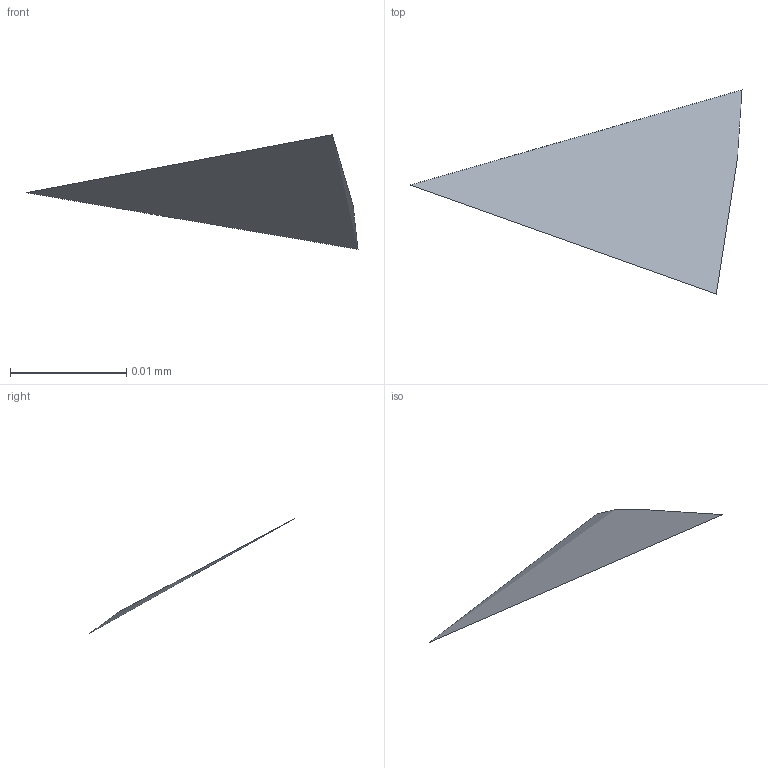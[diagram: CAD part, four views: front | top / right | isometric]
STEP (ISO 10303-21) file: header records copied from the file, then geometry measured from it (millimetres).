
FILE_DESCRIPTION(/* description */ ('STEP AP242 Edition 2','CAx-IF Rec.Pracs.---Representation and Presentation of Product Manufacturing Information (PMI)---4.0---2014-10-13','CAx-IF Rec.Pracs.---3D Tessellated Geometry---0.4---2014-09-14','2;1','CAx-IF Rec.Pracs.---User Defined Attributes---1.5---2016-08-15'),/* implementation_level */ '2;1');
FILE_NAME(/* name */ 'Assembly 1 - Part 56',/* time_stamp */ '2026-03-29T21:14:58Z',/* author */ (''),/* organization */ (''),/* preprocessor_version */ 'ST-DEVELOPER v20',/* originating_system */ 'ONSHAPE BY PTC INC, 1.212',/* authorisation */ ' ');
FILE_SCHEMA (('AP242_MANAGED_MODEL_BASED_3D_ENGINEERING_MIM_LF { 1 0 10303 442 3 1 4 }'));
Length unit declared in the file: metre
Products named in the file (1): Part 56
Bounding box: 0.03 x 0.02 x 0.01 mm (x, y, z)
Surface area: 0 mm2 (no closed solid volume)
Topology: 0 solids, 1 shells, 1 faces, 0 edges, 0 vertices
Faces by surface type: other 1
Entity records: 31 total; most frequent: DIRECTION 2, SHAPE_REPRESENTATION_RELATIONSHIP 1, TESSELLATED_SHAPE_REPRESENTATION 1, STYLED_ITEM 1, PRESENTATION_STYLE_ASSIGNMENT 1, SURFACE_STYLE_USAGE 1, SURFACE_SIDE_STYLE 1, SURFACE_STYLE_FILL_AREA 1
